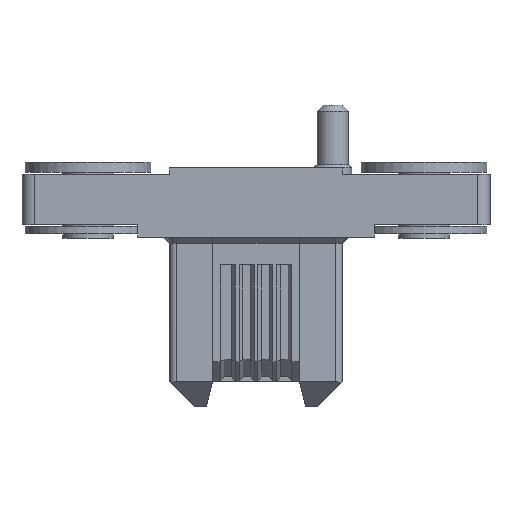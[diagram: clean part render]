
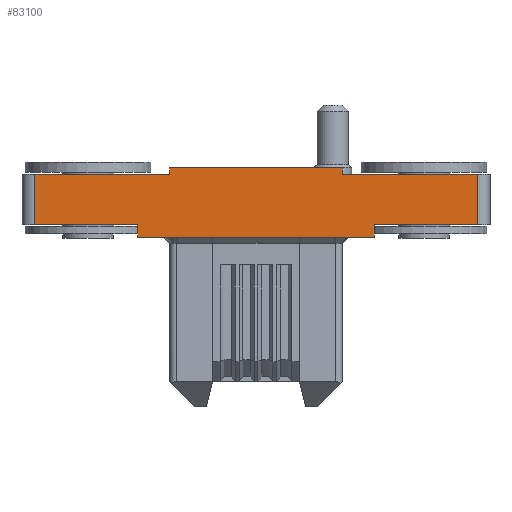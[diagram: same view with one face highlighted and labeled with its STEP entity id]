
A CAD part, front view. The second image highlights one B-rep face of the part: STEP entity #83100.
In plain terms, the highlighted planar face has unit normal (0, -1, 0).
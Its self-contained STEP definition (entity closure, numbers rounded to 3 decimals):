
#7290=CARTESIAN_POINT('',(10.622,-4.086,
0.));
#7300=DIRECTION('',(0.,0.,-1.));
#7310=VECTOR('',#7300,1.);
#7320=LINE('',#7290,#7310);
#7330=CARTESIAN_POINT('',(10.622,-4.086,
0.));
#7340=VERTEX_POINT('',#7330);
#7350=CARTESIAN_POINT('',(10.622,-4.086,-0.5));
#7360=VERTEX_POINT('',#7350);
#7370=EDGE_CURVE('',#7340,#7360,#7320,.T.);
#18770=CARTESIAN_POINT('',(-0.128,-4.086,-4.5));
#18780=VERTEX_POINT('',#18770);
#18810=CARTESIAN_POINT('',(0.,-4.086,-4.5));
#18820=DIRECTION('',(-1.,0.,0.));
#18830=VECTOR('',#18820,1.);
#18840=LINE('',#18810,#18830);
#18850=CARTESIAN_POINT('',(8.072,-4.086,-4.5));
#18860=VERTEX_POINT('',#18850);
#18870=EDGE_CURVE('',#18860,#18780,#18840,.T.);
#41500=CARTESIAN_POINT('',(8.072,-4.086,
-5.5));
#41510=VERTEX_POINT('',#41500);
#41560=CARTESIAN_POINT('',(8.072,-4.086,-5.5));
#41570=DIRECTION('',(0.,0.,1.));
#41580=VECTOR('',#41570,1.);
#41590=LINE('',#41560,#41580);
#41600=EDGE_CURVE('',#41510,#18860,#41590,.T.);
#46010=CARTESIAN_POINT('',(-0.128,-4.086,-0.5));
#46020=VERTEX_POINT('',#46010);
#46090=CARTESIAN_POINT('',(0.,-4.086,-0.5));
#46100=DIRECTION('',(1.,0.,0.));
#46110=VECTOR('',#46100,1.);
#46120=LINE('',#46090,#46110);
#46130=EDGE_CURVE('',#46020,#7360,#46120,.T.);
#46780=CARTESIAN_POINT('',(-0.128,-4.086,-4.5));
#46790=DIRECTION('',(0.,0.,1.));
#46800=VECTOR('',#46790,1.);
#46810=LINE('',#46780,#46800);
#46820=EDGE_CURVE('',#18780,#46020,#46810,.T.);
#48760=CARTESIAN_POINT('',(-24.,-4.086,-4.5));
#48770=DIRECTION('',(-1.,0.,0.));
#48780=VECTOR('',#48770,1.);
#48790=LINE('',#48760,#48780);
#48800=CARTESIAN_POINT('',(35.072,-4.086,-4.5));
#48810=VERTEX_POINT('',#48800);
#48820=CARTESIAN_POINT('',(26.872,-4.086,-4.5));
#48830=VERTEX_POINT('',#48820);
#48840=EDGE_CURVE('',#48810,#48830,#48790,.T.);
#54160=CARTESIAN_POINT('',(35.072,-4.086,
-0.5));
#54170=VERTEX_POINT('',#54160);
#54200=CARTESIAN_POINT('',(-24.,-4.086,
-0.5));
#54210=DIRECTION('',(1.,0.,0.));
#54220=VECTOR('',#54210,1.);
#54230=LINE('',#54200,#54220);
#54240=CARTESIAN_POINT('',(24.322,-4.086,
-0.5));
#54250=VERTEX_POINT('',#54240);
#54260=EDGE_CURVE('',#54250,#54170,#54230,.T.);
#55960=CARTESIAN_POINT('',(24.322,-4.086,
0.));
#55970=VERTEX_POINT('',#55960);
#56000=CARTESIAN_POINT('',(24.322,-4.086,
0.));
#56010=DIRECTION('',(-1.,0.,0.));
#56020=VECTOR('',#56010,1.);
#56030=LINE('',#56000,#56020);
#56040=CARTESIAN_POINT('',(23.572,-4.086,
0.));
#56050=VERTEX_POINT('',#56040);
#56060=EDGE_CURVE('',#55970,#56050,#56030,.T.);
#56240=CARTESIAN_POINT('',(24.322,-4.086,
0.));
#56250=DIRECTION('',(0.,0.,-1.));
#56260=VECTOR('',#56250,1.);
#56270=LINE('',#56240,#56260);
#56280=EDGE_CURVE('',#55970,#54250,#56270,.T.);
#56730=CARTESIAN_POINT('',(31.072,-4.086,
0.));
#56740=DIRECTION('',(-1.,0.,0.));
#56750=VECTOR('',#56740,1.);
#56760=LINE('',#56730,#56750);
#56770=EDGE_CURVE('',#56050,#7340,#56760,.T.);
#77070=CARTESIAN_POINT('',(35.872,-4.086,-5.5));
#77080=DIRECTION('',(-1.,0.,0.));
#77090=VECTOR('',#77080,1.);
#77100=LINE('',#77070,#77090);
#77110=CARTESIAN_POINT('',(26.872,-4.086,
-5.5));
#77120=VERTEX_POINT('',#77110);
#77130=EDGE_CURVE('',#77120,#41510,#77100,.T.);
#82800=CARTESIAN_POINT('',(6.997,-4.086,-2.75));
#82810=DIRECTION('',(0.,-1.,-0.));
#82820=DIRECTION('',(-1.,0.,0.));
#82830=AXIS2_PLACEMENT_3D('',#82800,#82810,#82820);
#82840=PLANE('',#82830);
#82850=ORIENTED_EDGE('',*,*,#41600,.F.);
#82860=ORIENTED_EDGE('',*,*,#18870,.F.);
#82870=ORIENTED_EDGE('',*,*,#46820,.F.);
#82880=ORIENTED_EDGE('',*,*,#46130,.F.);
#82890=ORIENTED_EDGE('',*,*,#7370,.T.);
#82900=ORIENTED_EDGE('',*,*,#56770,.T.);
#82910=ORIENTED_EDGE('',*,*,#56060,.T.);
#82920=ORIENTED_EDGE('',*,*,#56280,.F.);
#82930=ORIENTED_EDGE('',*,*,#54260,.F.);
#82940=CARTESIAN_POINT('',(35.072,-4.086,
-0.5));
#82950=DIRECTION('',(0.,0.,-1.));
#82960=VECTOR('',#82950,1.);
#82970=LINE('',#82940,#82960);
#82980=EDGE_CURVE('',#54170,#48810,#82970,.T.);
#82990=ORIENTED_EDGE('',*,*,#82980,.F.);
#83000=ORIENTED_EDGE('',*,*,#48840,.F.);
#83010=CARTESIAN_POINT('',(26.872,-4.086,-4.5));
#83020=DIRECTION('',(0.,0.,-1.));
#83030=VECTOR('',#83020,1.);
#83040=LINE('',#83010,#83030);
#83050=EDGE_CURVE('',#48830,#77120,#83040,.T.);
#83060=ORIENTED_EDGE('',*,*,#83050,.F.);
#83070=ORIENTED_EDGE('',*,*,#77130,.F.);
#83080=EDGE_LOOP('',(#83070,#83060,#83000,#82990,#82930,#82920,#82910,
#82900,#82890,#82880,#82870,#82860,#82850));
#83090=FACE_OUTER_BOUND('',#83080,.T.);
#83100=ADVANCED_FACE('',(#83090),#82840,.T.);
